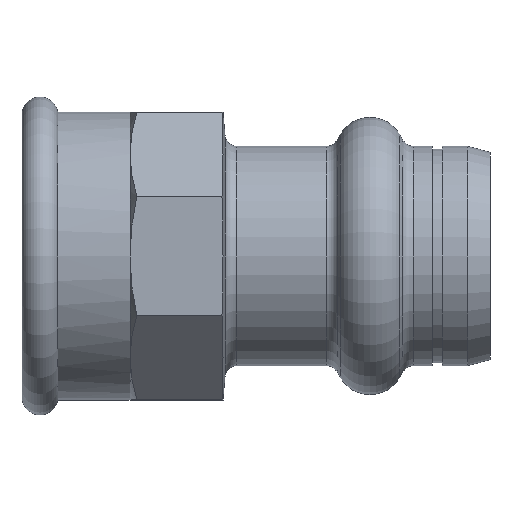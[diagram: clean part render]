
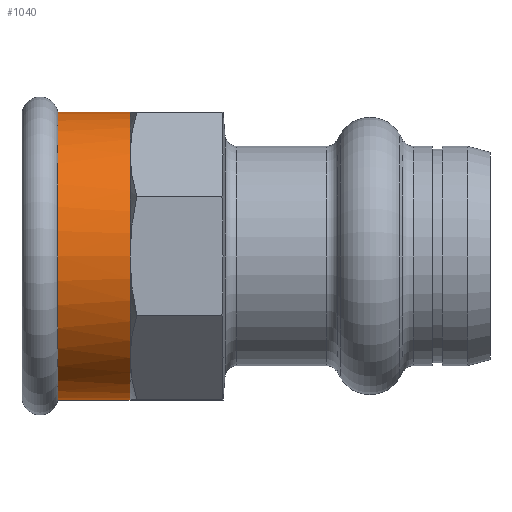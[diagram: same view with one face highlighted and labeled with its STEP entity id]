
A CAD part, left-side view. The second image highlights one B-rep face of the part: STEP entity #1040.
In plain terms, the highlighted cylindrical face has radius 12 mm (diameter 24 mm), a partial arc.
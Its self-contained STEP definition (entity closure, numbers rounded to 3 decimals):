
#18 = VERTEX_POINT ( 'NONE', #82 ) ;
#51 = ORIENTED_EDGE ( 'NONE', *, *, #1399, .F. ) ;
#68 = CARTESIAN_POINT ( 'NONE',  ( 0., -17.811, 0. ) ) ;
#82 = CARTESIAN_POINT ( 'NONE',  ( -8.485, 30., 8.485 ) ) ;
#85 = ORIENTED_EDGE ( 'NONE', *, *, #830, .T. ) ;
#237 = VERTEX_POINT ( 'NONE', #1768 ) ;
#318 = AXIS2_PLACEMENT_3D ( 'NONE', #916, #911, #903 ) ;
#331 = DIRECTION ( 'NONE',  ( 0., 0., -1. ) ) ;
#346 = EDGE_CURVE ( 'NONE', #1512, #1065, #1942, .T. ) ;
#353 = DIRECTION ( 'NONE',  ( 0., -1., 0. ) ) ;
#359 = CARTESIAN_POINT ( 'NONE',  ( 0., 36.021, 0. ) ) ;
#416 = ORIENTED_EDGE ( 'NONE', *, *, #868, .F. ) ;
#429 = VERTEX_POINT ( 'NONE', #1659 ) ;
#448 = CIRCLE ( 'NONE', #1676, 12. ) ;
#479 = EDGE_CURVE ( 'NONE', #429, #237, #448, .T. ) ;
#503 = CARTESIAN_POINT ( 'NONE',  ( -12., 30., 0. ) ) ;
#533 = DIRECTION ( 'NONE',  ( 0., 0., -1. ) ) ;
#536 = EDGE_CURVE ( 'NONE', #18, #572, #1591, .T. ) ;
#537 = VECTOR ( 'NONE', #728, 1000. ) ;
#562 = DIRECTION ( 'NONE',  ( 0., 0., -1. ) ) ;
#572 = VERTEX_POINT ( 'NONE', #503 ) ;
#573 = CARTESIAN_POINT ( 'NONE',  ( 0., 30., 12. ) ) ;
#595 = DIRECTION ( 'NONE',  ( 0., -1., 0. ) ) ;
#648 = FACE_OUTER_BOUND ( 'NONE', #1328, .T. ) ;
#698 = LINE ( 'NONE', #1492, #1706 ) ;
#723 = CIRCLE ( 'NONE', #1354, 12. ) ;
#728 = DIRECTION ( 'NONE',  ( 0., -1., 0. ) ) ;
#752 = ORIENTED_EDGE ( 'NONE', *, *, #346, .F. ) ;
#790 = CARTESIAN_POINT ( 'NONE',  ( 0., 30., 0. ) ) ;
#830 = EDGE_CURVE ( 'NONE', #1512, #1804, #1209, .T. ) ;
#838 = ORIENTED_EDGE ( 'NONE', *, *, #1150, .T. ) ;
#860 = CARTESIAN_POINT ( 'NONE',  ( 0., 36.021, 12. ) ) ;
#862 = AXIS2_PLACEMENT_3D ( 'NONE', #359, #353, #331 ) ;
#868 = EDGE_CURVE ( 'NONE', #1065, #18, #723, .T. ) ;
#903 = DIRECTION ( 'NONE',  ( 0., 0., -1. ) ) ;
#911 = DIRECTION ( 'NONE',  ( 0., -1., 0. ) ) ;
#916 = CARTESIAN_POINT ( 'NONE',  ( 0., 30., 0. ) ) ;
#982 = AXIS2_PLACEMENT_3D ( 'NONE', #68, #1869, #1334 ) ;
#992 = DIRECTION ( 'NONE',  ( 0., -1., 0. ) ) ;
#1040 = ADVANCED_FACE ( 'NONE', ( #648 ), #1397, .T. ) ;
#1065 = VERTEX_POINT ( 'NONE', #573 ) ;
#1150 = EDGE_CURVE ( 'NONE', #1804, #237, #698, .T. ) ;
#1179 = CARTESIAN_POINT ( 'NONE',  ( 0., 30., 0. ) ) ;
#1209 = CIRCLE ( 'NONE', #862, 12. ) ;
#1328 = EDGE_LOOP ( 'NONE', ( #752, #85, #838, #1429, #51, #1507, #416 ) ) ;
#1334 = DIRECTION ( 'NONE',  ( 0., 0., -1. ) ) ;
#1354 = AXIS2_PLACEMENT_3D ( 'NONE', #790, #595, #533 ) ;
#1397 = CYLINDRICAL_SURFACE ( 'NONE', #982, 12. ) ;
#1399 = EDGE_CURVE ( 'NONE', #572, #429, #1901, .T. ) ;
#1429 = ORIENTED_EDGE ( 'NONE', *, *, #479, .F. ) ;
#1438 = DIRECTION ( 'NONE',  ( 0., -1., 0. ) ) ;
#1492 = CARTESIAN_POINT ( 'NONE',  ( 0., -17.811, -12. ) ) ;
#1498 = CARTESIAN_POINT ( 'NONE',  ( 0., 36.021, -12. ) ) ;
#1505 = AXIS2_PLACEMENT_3D ( 'NONE', #1179, #992, #562 ) ;
#1507 = ORIENTED_EDGE ( 'NONE', *, *, #536, .F. ) ;
#1510 = DIRECTION ( 'NONE',  ( 0., 0., -1. ) ) ;
#1512 = VERTEX_POINT ( 'NONE', #860 ) ;
#1591 = CIRCLE ( 'NONE', #318, 12. ) ;
#1659 = CARTESIAN_POINT ( 'NONE',  ( -8.485, 30., -8.485 ) ) ;
#1676 = AXIS2_PLACEMENT_3D ( 'NONE', #1873, #1682, #1510 ) ;
#1682 = DIRECTION ( 'NONE',  ( 0., -1., 0. ) ) ;
#1706 = VECTOR ( 'NONE', #1438, 1000. ) ;
#1707 = CARTESIAN_POINT ( 'NONE',  ( 0., -17.811, 12. ) ) ;
#1768 = CARTESIAN_POINT ( 'NONE',  ( 0., 30., -12. ) ) ;
#1804 = VERTEX_POINT ( 'NONE', #1498 ) ;
#1869 = DIRECTION ( 'NONE',  ( 0., -1., 0. ) ) ;
#1873 = CARTESIAN_POINT ( 'NONE',  ( 0., 30., 0. ) ) ;
#1901 = CIRCLE ( 'NONE', #1505, 12. ) ;
#1942 = LINE ( 'NONE', #1707, #537 ) ;
